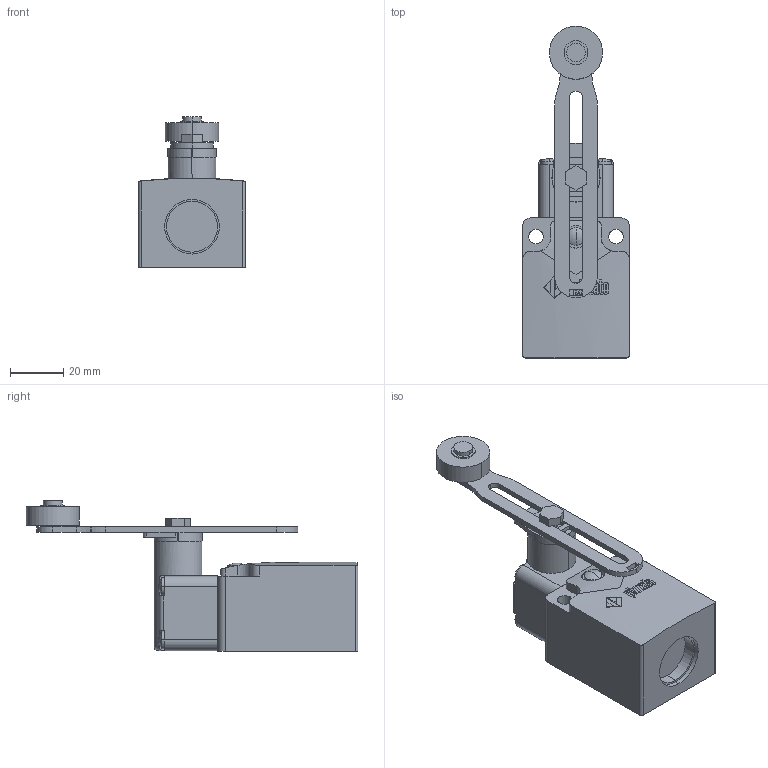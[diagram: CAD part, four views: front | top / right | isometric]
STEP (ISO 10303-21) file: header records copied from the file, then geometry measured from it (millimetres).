
FILE_DESCRIPTION (( 'STEP AP214' ), '1' );
FILE_NAME ('ZF_STEP_FC_x35.step', '2015-05-14T14:13:15', ( 'utente' ), ( 'Microsoft' ), 'SwSTEP 2.0', 'SolidWorks 2014', '' );
FILE_SCHEMA (( 'AUTOMOTIVE_DESIGN' ));
Length unit declared in the file: millimetre
Products named in the file (8): Pizzato_Custodia_FC; ZF_STEP_FC_x35; ZF_STEP_VF_T35; ZF_STEP_VF_L35_A10; Pizzato_L35; Vite_leve_pesanti; Pizzato_supporto-leva_serie_pesanti_262; ZF_STEP_VF_T38_Lung Vite 2mm
Assembly tree (7 placements, depth 4):
  ZF_STEP_FC_x35
    Pizzato_Custodia_FC
    ZF_STEP_VF_T35
      ZF_STEP_VF_T38_Lung Vite 2mm
      ZF_STEP_VF_L35_A10
        Pizzato_supporto-leva_serie_pesanti_262
        Vite_leve_pesanti
        Pizzato_L35
Bounding box: 40 x 124.5 x 56.45 mm (x, y, z)
Volume: 90735.1 mm3; surface area: 23448.3 mm2
Topology: 5 solids, 5 shells, 788 faces, 2181 edges, 1453 vertices
Faces by surface type: plane 413, cylinder 266, bspline 97, sphere 10, torus 2
Entity records: 30622 total; most frequent: CARTESIAN_POINT 10338, ORIENTED_EDGE 4362, DIRECTION 3929, EDGE_CURVE 2181, VERTEX_POINT 1453, LINE 1343, VECTOR 1343, AXIS2_PLACEMENT_3D 1293
